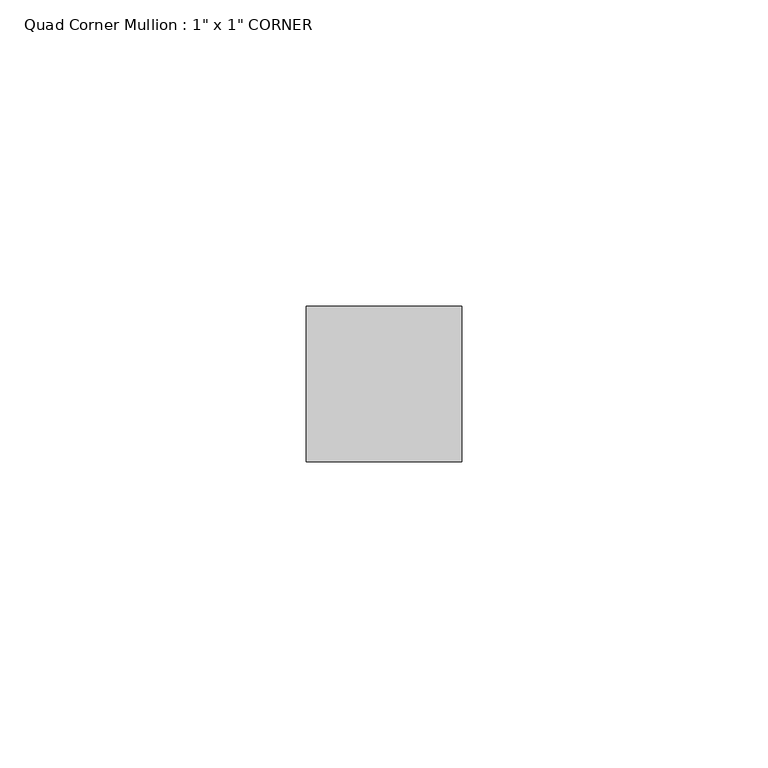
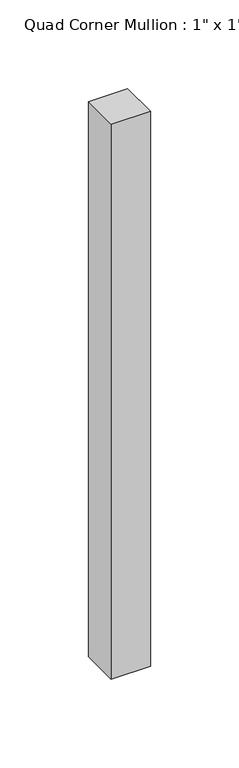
"""IFC4 building model written with IfcOpenShell, lengths in millimetres: member geometry."""

from ifc_helpers import new_model, si_unit, frame, origin, place, context, project, spatial, polyline, outline, extrude, source, transform, mapped, element, save


def member_2ec77c90(model_context):
    return source(origin(), model_context, "Body", "SweptSolid", [
        extrude(outline(polyline([(0.0, 25.4), (0.0, 0.0), (-25.4, 0.0), (-25.4, 25.4), (0.0, 25.4)])), frame((0.0, 0.0, -380.9999976), z_axis=(0.0, 0.0, 1.0), x_axis=(1.0, 0.0, 0.0)), (0.0, 0.0, 1.0), 380.9999976),
    ])


if __name__ == "__main__":
    model = new_model("IFC4")
    model_context = context("Model", 3, world=origin())
    ifc_project = project(units=[si_unit("LENGTHUNIT", "METRE", prefix="MILLI")], contexts=[model_context])
    site = spatial("IfcSite", under=ifc_project)
    building = spatial("IfcBuilding", under=site)
    placement = place(None, origin())
    member_shape = member_2ec77c90(model_context)
    element("IfcMember", 1, ObjectType="Quad Corner Mullion : 1\" x 1\" CORNER", at=placement, inside=building, context=model_context, shape_type="MappedRepresentation", body=[
        mapped(member_shape, transform((0.0, 0.0, 0.0), x_axis=(1.0, 0.0, 0.0), y_axis=(0.0, 1.0, 0.0), z_axis=(0.0, 0.0, 1.0))),
    ])
    save(model, "model.ifc")
